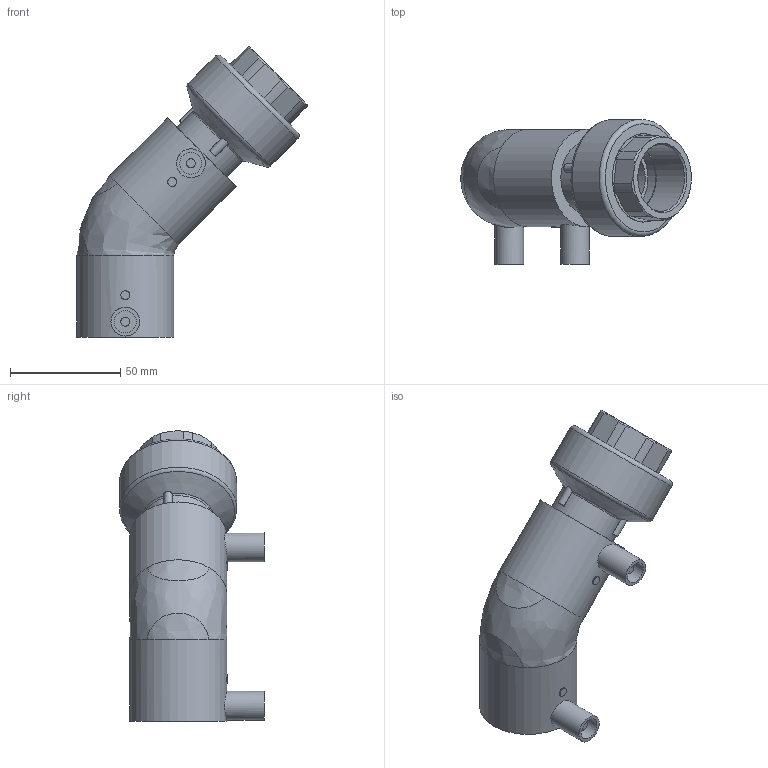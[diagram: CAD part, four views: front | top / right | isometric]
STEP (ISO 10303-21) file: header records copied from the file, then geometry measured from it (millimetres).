
FILE_DESCRIPTION(/* description */ ('Unknown'),/* implementation_level */ '2;1');
FILE_NAME(/* name */ 'GE4TFP032C',/* time_stamp */ '2021-03-02T15:22:26+01:00',/* author */ ('Unknown'),/* organization */ ('Unknown'),/* preprocessor_version */ 'ST-DEVELOPER v16.7',/* originating_system */ 'Solid Edge',/* authorisation */ 'Unknown');
FILE_SCHEMA (('AUTOMOTIVE_DESIGN {1 0 10303 214 3 1 1}'));
Length unit declared in the file: millimetre
Products named in the file (5): GE4TFP032C; GE4P032C; RTOFP032C; Parte PE 032; IOF032C
Assembly tree (4 placements, depth 3):
  GE4TFP032C
    GE4P032C
    RTOFP032C
      Parte PE 032
      IOF032C
Bounding box: 104.38 x 65.44 x 131.38 mm (x, y, z)
Volume: 130313.1 mm3; surface area: 59325 mm2
Topology: 3 solids, 3 shells, 517 faces, 1238 edges, 749 vertices
Faces by surface type: bspline 235, plane 111, cylinder 97, cone 39, torus 35
Full cylindrical faces by diameter (mm): 4 x4, 10 x2, 13 x2, 26 x1, 29.5 x4, 30.291 x1, 32 x3, 33.5 x2, 39.8 x2, 40 x2, 44 x6, 53 x1
Entity records: 19612 total; most frequent: CARTESIAN_POINT 7451, ORIENTED_EDGE 2372, DIRECTION 1926, EDGE_CURVE 1186, AXIS2_PLACEMENT_3D 897, VERTEX_POINT 737, EDGE_LOOP 585, FACE_BOUND 585
